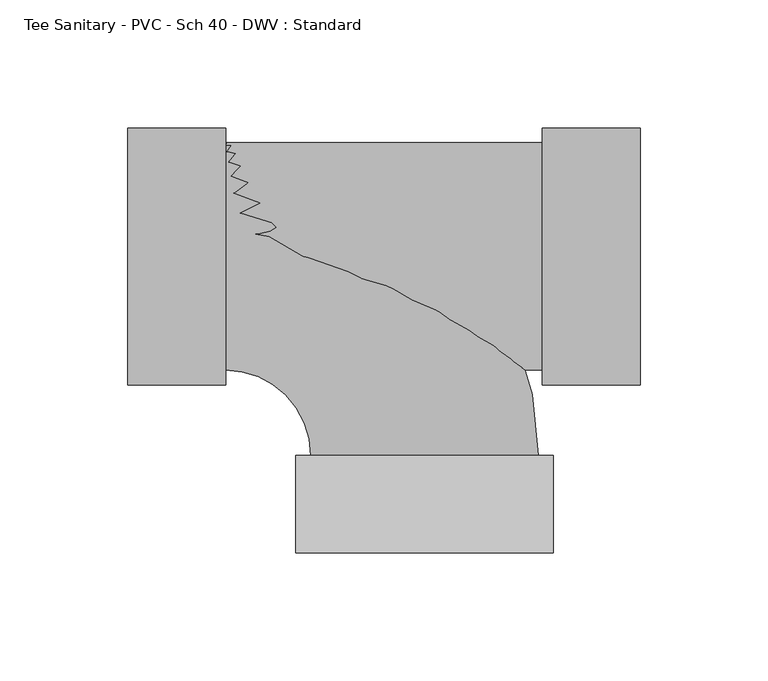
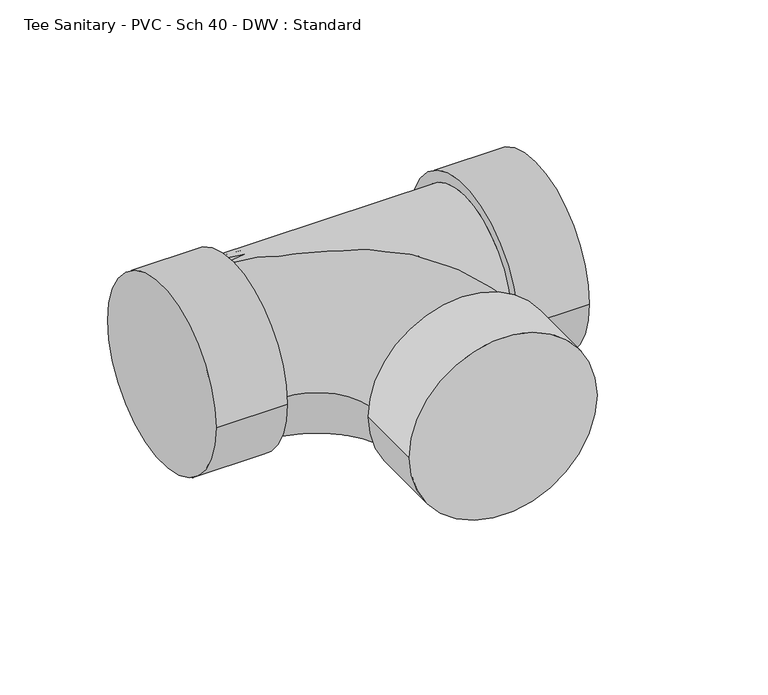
"""IFC4 building model written with IfcOpenShell, lengths in millimetres: pipe fitting geometry, Tee Sanitary - PVC - Sch 40 - DWV : Standard."""

from ifc_helpers import new_model, si_unit, point, frame, origin, place, context, project, spatial, circle_curve, ellipse_curve, trimmed, source, transform, mapped, element, save
from ifc_brep_helpers import plane_surface, cylinder_surface, revolved_surface, advanced_brep


def tee_sanitary_pvc_sch_40_dwv_standard_d77f13d0(model_context):
    return source(origin(), model_context, "Body", "AdvancedBrep", [
        advanced_brep(
        [(-77.8002, -44.45, 0.0), (-77.8002, 44.45, 0.0), (-44.45, -77.8002, 0.0), (44.45, -77.8002, 0.0), (50.2666, -115.9002, 0.0), (-50.2666, -115.9002, 0.0), (50.2666, -77.8002, 0.0), (-50.2666, -77.8002, 0.0)],
        [
            (0, 1, circle_curve(frame((-77.8002, 0.0, 0.0), z_axis=(-1.0, 0.0, 0.0), x_axis=(0.0, 1.0, 0.0)), 44.45)),
            (1, 0, circle_curve(frame((-77.8002, 0.0, 0.0), z_axis=(-1.0, 0.0, 0.0), x_axis=(0.0, 1.0, 0.0)), 44.45)),
            (0, 2, circle_curve(frame((-77.8002, -77.8002, 0.0), z_axis=(0.0, 0.0, -1.0), x_axis=(0.0, 1.0, 0.0)), 33.3502)),
            (2, 3, circle_curve(frame((0.0, -77.8002, 0.0), z_axis=(0.0, 1.0, 0.0), x_axis=(1.0, 0.0, 0.0)), 44.45)),
            (3, 1, circle_curve(frame((-77.8002, -77.8002, 0.0), z_axis=(0.0, 0.0, 1.0), x_axis=(0.0, 1.0, 0.0)), 122.2502)),
            (3, 2, circle_curve(frame((0.0, -77.8002, 0.0), z_axis=(0.0, 1.0, 0.0), x_axis=(1.0, 0.0, 0.0)), 44.45)),
            (4, 5, circle_curve(frame((0.0, -115.9002, 0.0), z_axis=(0.0, -1.0, 0.0), x_axis=(-1.0, 0.0, 0.0)), 50.2666)),
            (5, 4, circle_curve(frame((0.0, -115.9002, 0.0), z_axis=(0.0, -1.0, 0.0), x_axis=(-1.0, 0.0, 0.0)), 50.2666)),
            (6, 7, circle_curve(frame((0.0, -77.8002, 0.0), z_axis=(0.0, 1.0, 0.0), x_axis=(-1.0, 0.0, 0.0)), 50.2666)),
            (7, 6, circle_curve(frame((0.0, -77.8002, 0.0), z_axis=(0.0, 1.0, 0.0), x_axis=(-1.0, 0.0, 0.0)), 50.2666)),
            (4, 6),
            (7, 5),
        ],
        [
            plane_surface(frame((-77.8002, 0.0, 0.0), z_axis=(-1.0, 0.0, 0.0), x_axis=(0.0, 0.0, 1.0))),
            revolved_surface(trimmed(ellipse_curve(frame((-77.8002, 0.0, 0.0), z_axis=(-1.0, 0.0, 0.0), x_axis=(0.0, 1.0, 0.0)), 44.45, 44.45), [point((-77.8002, -44.45, 0.0))], [point((-77.8002, 44.45, 0.0))], True, "CARTESIAN"), (-77.8002, -77.8002, 0.0), (0.0, 0.0, -1.0)),
            revolved_surface(trimmed(ellipse_curve(frame((-77.8002, 0.0, 0.0), z_axis=(-1.0, 0.0, 0.0), x_axis=(0.0, 1.0, 0.0)), 44.45, 44.45), [point((-77.8002, 44.45, 0.0))], [point((-77.8002, -44.45, 0.0))], True, "CARTESIAN"), (-77.8002, -77.8002, 0.0), (0.0, 0.0, -1.0)),
            plane_surface(frame((0.0, -115.9002, 0.0), z_axis=(0.0, -1.0, 0.0), x_axis=(0.0, 0.0, 1.0))),
            plane_surface(frame((0.0, -77.8002, 0.0), z_axis=(0.0, 1.0, 0.0), x_axis=(0.0, 0.0, 1.0))),
            cylinder_surface(frame((0.0, -115.9002, 0.0), z_axis=(0.0, -1.0, 0.0), x_axis=(-1.0, 0.0, 0.0)), 50.2666),
        ],
        [
            (0, [[1, 2]]),
            (1, [[-1, 3, 4, 5]]),
            (2, [[-2, -5, 6, -3]]),
            (3, [[7, 8]]),
            (4, [[9, 10], [-4, -6]]),
            (5, [[-7, 11, -10, 12]]),
            (5, [[-8, -12, -9, -11]]),
        ],
    ),
        advanced_brep(
        [(-77.8002, -44.45, 0.0), (46.0248, -44.45, 0.0), (46.0248, 44.45, 0.0), (-77.8002, 44.45, 0.0), (46.0248, -50.2666, 0.0), (46.0248, 50.2666, 0.0), (84.1248, -50.2666, 0.0), (84.1248, 50.2666, 0.0), (-115.9002, -50.2666, 0.0), (-115.9002, 50.2666, 0.0), (-77.8002, -50.2666, 0.0), (-77.8002, 50.2666, 0.0)],
        [
            (0, 1),
            (1, 2, circle_curve(frame((46.0248, 0.0, 0.0), z_axis=(-1.0, 0.0, 0.0), x_axis=(0.0, 1.0, 0.0)), 44.45)),
            (2, 3),
            (3, 0, circle_curve(frame((-77.8002, 0.0, 0.0), z_axis=(1.0, 0.0, 0.0), x_axis=(0.0, 1.0, 0.0)), 44.45)),
            (0, 3, circle_curve(frame((-77.8002, 0.0, 0.0), z_axis=(1.0, 0.0, 0.0), x_axis=(0.0, 1.0, 0.0)), 44.45)),
            (2, 1, circle_curve(frame((46.0248, 0.0, 0.0), z_axis=(-1.0, 0.0, 0.0), x_axis=(0.0, 1.0, 0.0)), 44.45)),
            (4, 5, circle_curve(frame((46.0248, 0.0, 0.0), z_axis=(-1.0, 0.0, 0.0), x_axis=(0.0, 1.0, 0.0)), 50.2666)),
            (5, 4, circle_curve(frame((46.0248, 0.0, 0.0), z_axis=(-1.0, 0.0, 0.0), x_axis=(0.0, 1.0, 0.0)), 50.2666)),
            (6, 7, circle_curve(frame((84.1248, 0.0, 0.0), z_axis=(1.0, 0.0, 0.0), x_axis=(0.0, 1.0, 0.0)), 50.2666)),
            (7, 6, circle_curve(frame((84.1248, 0.0, 0.0), z_axis=(1.0, 0.0, 0.0), x_axis=(0.0, 1.0, 0.0)), 50.2666)),
            (4, 6),
            (7, 5),
            (8, 9, circle_curve(frame((-115.9002, 0.0, 0.0), z_axis=(-1.0, 0.0, 0.0), x_axis=(0.0, 1.0, 0.0)), 50.2666)),
            (9, 8, circle_curve(frame((-115.9002, 0.0, 0.0), z_axis=(-1.0, 0.0, 0.0), x_axis=(0.0, 1.0, 0.0)), 50.2666)),
            (10, 11, circle_curve(frame((-77.8002, 0.0, 0.0), z_axis=(1.0, 0.0, 0.0), x_axis=(0.0, 1.0, 0.0)), 50.2666)),
            (11, 10, circle_curve(frame((-77.8002, 0.0, 0.0), z_axis=(1.0, 0.0, 0.0), x_axis=(0.0, 1.0, 0.0)), 50.2666)),
            (8, 10),
            (11, 9),
        ],
        [
            cylinder_surface(frame((-77.8002, 0.0, 0.0), z_axis=(-1.0, 0.0, 0.0), x_axis=(0.0, 1.0, 0.0)), 44.45),
            plane_surface(frame((46.0248, 0.0, 0.0), z_axis=(-1.0, 0.0, 0.0), x_axis=(0.0, 0.0, 1.0))),
            plane_surface(frame((84.1248, 0.0, 0.0), z_axis=(1.0, 0.0, 0.0), x_axis=(0.0, 0.0, 1.0))),
            cylinder_surface(frame((46.0248, 0.0, 0.0), z_axis=(-1.0, 0.0, 0.0), x_axis=(0.0, 1.0, 0.0)), 50.2666),
            plane_surface(frame((-115.9002, 0.0, 0.0), z_axis=(-1.0, 0.0, 0.0), x_axis=(0.0, 0.0, 1.0))),
            plane_surface(frame((-77.8002, 0.0, 0.0), z_axis=(1.0, 0.0, 0.0), x_axis=(0.0, 0.0, 1.0))),
            cylinder_surface(frame((-115.9002, 0.0, 0.0), z_axis=(-1.0, 0.0, 0.0), x_axis=(0.0, 1.0, 0.0)), 50.2666),
        ],
        [
            (0, [[1, 2, 3, 4]]),
            (0, [[-1, 5, -3, 6]]),
            (1, [[7, 8], [-2, -6]]),
            (2, [[9, 10]]),
            (3, [[-7, 11, -10, 12]]),
            (3, [[-8, -12, -9, -11]]),
            (4, [[13, 14]]),
            (5, [[15, 16], [-4, -5]]),
            (6, [[-13, 17, -16, 18]]),
            (6, [[-14, -18, -15, -17]]),
        ],
    ),
    ])


if __name__ == "__main__":
    model = new_model("IFC4")
    model_context = context("Model", 3, world=origin())
    ifc_project = project(units=[si_unit("LENGTHUNIT", "METRE", prefix="MILLI")], contexts=[model_context])
    site = spatial("IfcSite", under=ifc_project)
    building = spatial("IfcBuilding", under=site)
    placement = place(None, origin())
    tee_sanitary_pvc_sch_40_dwv_standard_shape = tee_sanitary_pvc_sch_40_dwv_standard_d77f13d0(model_context)
    element("IfcPipeFitting", 1, ObjectType="Tee Sanitary - PVC - Sch 40 - DWV : Standard", at=placement, inside=building, context=model_context, shape_type="MappedRepresentation", body=[
        mapped(tee_sanitary_pvc_sch_40_dwv_standard_shape, transform((0.0, 0.0, 0.0), x_axis=(1.0, 0.0, 0.0), y_axis=(0.0, 1.0, 0.0), z_axis=(0.0, 0.0, 1.0))),
    ])
    save(model, "model.ifc")
